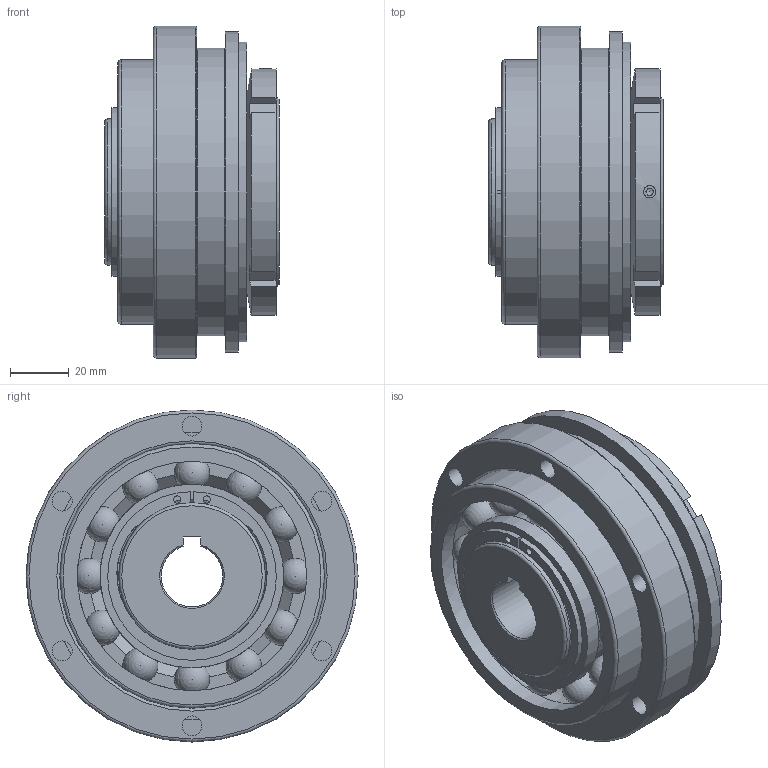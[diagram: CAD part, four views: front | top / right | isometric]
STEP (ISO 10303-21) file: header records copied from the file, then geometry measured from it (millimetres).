
FILE_DESCRIPTION( ( 'Unknown' ), '1' );
FILE_NAME( 'F:/JAKOB-STEP+IGES-Dateien/STEP-Dateien/SKW/SKW 330.stp', 'Unknown', ( 'Unknown' ), ( 'Unknown' ), 'PSStep 10.1', 'Unknown', ' ' );
FILE_SCHEMA( ( 'AUTOMOTIVE_DESIGN { 1 0 10303 214 1 1 1 1 }' ) );
Length unit declared in the file: millimetre
Products named in the file (1): 27920753
Bounding box: 59.5 x 113 x 113 mm (x, y, z)
Volume: 368457.9 mm3; surface area: 74640.8 mm2
Topology: 1 solids, 2 shells, 154 faces, 493 edges, 325 vertices
Faces by surface type: plane 56, torus 38, cylinder 37, sphere 12, cone 7, bspline 4
Full cylindrical faces by diameter (mm): 2.5 x2, 4.2 x3, 6.8 x6, 47.5 x1, 49.8 x1, 50 x2, 62.5 x2, 65 x2, 65.3 x1, 78.1 x2, 90 x2, 94 x2, 98 x1, 102 x1, 109 x1, 113 x1
Entity records: 7354 total; most frequent: CARTESIAN_POINT 2446, ORIENTED_EDGE 740, DIRECTION 722, EDGE_CURVE 370, AXIS2_PLACEMENT_3D 324, VERTEX_POINT 264, EDGE_LOOP 246, FACE_OUTER_BOUND 183
